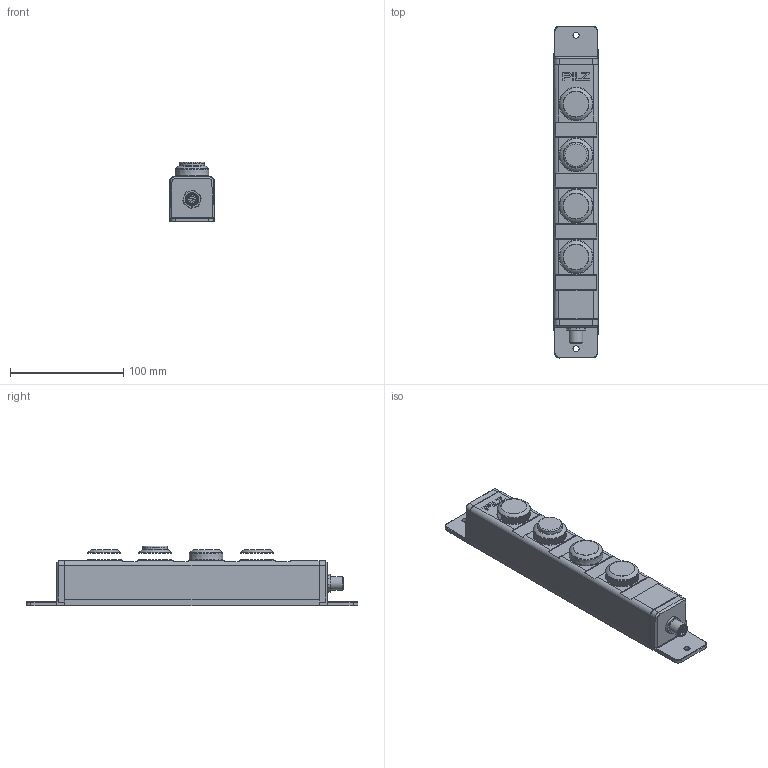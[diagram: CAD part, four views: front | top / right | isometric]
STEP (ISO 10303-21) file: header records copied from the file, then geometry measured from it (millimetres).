
FILE_DESCRIPTION(/* description */ (''),/* implementation_level */ '2;1');
FILE_NAME(/* name */ 'C:\_Vault\Workspace\Projektordner\03-Sensoren\02-STS\09-PITgatebox\03-Kundendaten\2030191_B_PIT_gb_LLUL.stp',/* time_stamp */ '2021-04-15T16:07:34+02:00',/* author */ ('ES-PE'),/* organization */ (''),/* preprocessor_version */ 'ST-DEVELOPER v18.1',/* originating_system */ 'Autodesk Inventor 2020',/* authorisation */ '');
FILE_SCHEMA (('AUTOMOTIVE_DESIGN { 1 0 10303 214 3 1 1 }'));
Length unit declared in the file: millimetre
Products named in the file (4): 2030191; Kundendaten_PIT_gb_Gehäuse; H306916; H306915
Assembly tree (3 placements, depth 2):
  2030191
    Kundendaten_PIT_gb_Gehäuse
    H306916
    H306915
Bounding box: 40 x 293 x 52.93 mm (x, y, z)
Volume: 409678.7 mm3; surface area: 58806 mm2
Topology: 6 solids, 6 shells, 544 faces, 1350 edges, 870 vertices
Faces by surface type: cylinder 180, plane 166, cone 123, torus 35, bspline 23, sphere 17
Full cylindrical faces by diameter (mm): 0.6 x12, 1.1 x12, 5.4 x2, 8.3 x1, 9.5 x2, 9.6 x1, 10 x2, 10.6 x1, 11 x1, 12 x1, 12.1 x1, 14 x1, 20 x2, 28.6 x4, 29.2 x4
Entity records: 18165 total; most frequent: CARTESIAN_POINT 5115, DIRECTION 2790, ORIENTED_EDGE 2676, EDGE_CURVE 1338, AXIS2_PLACEMENT_3D 1166, VERTEX_POINT 870, CIRCLE 626, EDGE_LOOP 614
